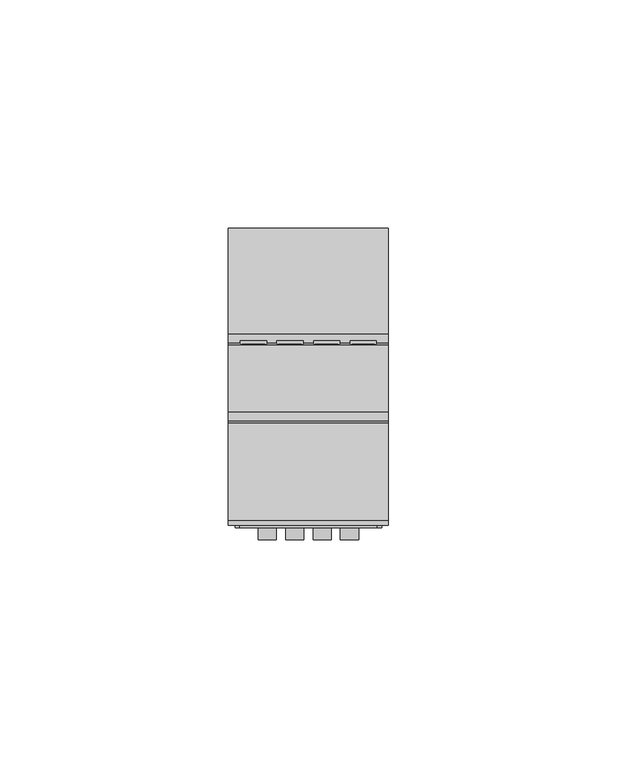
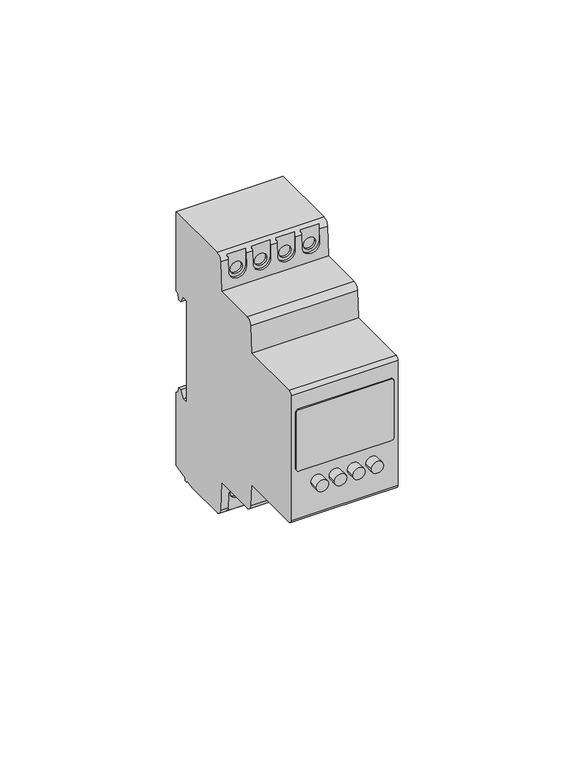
"""IFC4 building model written with IfcOpenShell, lengths in millimetres: proxy geometry, TDM_РЕЛЕ ВРЕМЕНИ НА DIN-РЕЙКУ СЕРИИ РВМЦ : РВМЦ 0.1с/100час 2х8А 24-230 AC/CD."""

from ifc_helpers import new_model, si_unit, point, frame, frame_2d, origin, place, context, project, spatial, polyline, circle_curve, ellipse_curve, trimmed, segment, composite_curve, outline, extrude, source, transform, mapped, element, save
from ifc_brep_helpers import plane_surface, cylinder_surface, revolved_surface, advanced_brep


def electrical_equipment_4113cb17(model_context):
    return source(origin(), model_context, "Body", "SolidModel", [
        extrude(outline(composite_curve([segment(polyline([(15.4266726, 15.0), (15.4266726, -15.0)]), True, "CONTINUOUS"), segment(trimmed(circle_curve(frame_2d((14.4266726, -15.0)), 1.0), [point((15.4266726, -15.0))], [point((14.4266726, -16.0))], False, "CARTESIAN"), True, "CONTINUOUS"), segment(polyline([(14.4266726, -16.0), (-4.7692068, -16.0)]), True, "CONTINUOUS"), segment(trimmed(circle_curve(frame_2d((-4.7692068, -15.0)), 1.0), [point((-4.7692068, -16.0))], [point((-5.7692068, -15.0))], False, "CARTESIAN"), True, "CONTINUOUS"), segment(polyline([(-5.7692068, -15.0), (-5.7692068, 15.0)]), True, "CONTINUOUS"), segment(trimmed(circle_curve(frame_2d((-4.7692068, 15.0)), 1.0), [point((-5.7692068, 15.0))], [point((-4.7692068, 16.0))], False, "CARTESIAN"), True, "CONTINUOUS"), segment(polyline([(-4.7692068, 16.0), (14.4266726, 16.0)]), True, "CONTINUOUS"), segment(trimmed(circle_curve(frame_2d((14.4266726, 15.0)), 1.0), [point((14.4266726, 16.0))], [point((15.4266726, 15.0))], False, "CARTESIAN"), True, "CONTINUOUS")], self_intersect=False)), frame((0.0, -27.9522917, 0.0), z_axis=(0.0, 1.0, 0.0), x_axis=(0.0, 0.0, 1.0)), (0.0, 0.0, 1.0), 0.4522917),
        extrude(outline(composite_curve([segment(trimmed(circle_curve(frame_2d((-11.3756041, 9.0)), 2.0), [point((-11.3756041, 7.0))], [point((-11.3756041, 11.0))], False, "CARTESIAN"), True, "CONTINUOUS"), segment(trimmed(circle_curve(frame_2d((-11.3756041, 9.0)), 2.0), [point((-11.3756041, 11.0))], [point((-11.3756041, 7.0))], False, "CARTESIAN"), True, "CONTINUOUS")], self_intersect=False)), frame((0.0, -30.5593993, 0.0), z_axis=(0.0, 1.0, 0.0), x_axis=(0.0, 0.0, 1.0)), (0.0, 0.0, 1.0), 3.0593993),
        extrude(outline(composite_curve([segment(trimmed(circle_curve(frame_2d((-11.3756041, 3.0)), 2.0), [point((-11.3756041, 5.0))], [point((-11.3756041, 1.0))], False, "CARTESIAN"), True, "CONTINUOUS"), segment(trimmed(circle_curve(frame_2d((-11.3756041, 3.0)), 2.0), [point((-11.3756041, 1.0))], [point((-11.3756041, 5.0))], False, "CARTESIAN"), True, "CONTINUOUS")], self_intersect=False)), frame((0.0, -30.5593993, 0.0), z_axis=(0.0, 1.0, 0.0), x_axis=(0.0, 0.0, 1.0)), (0.0, 0.0, 1.0), 3.0593993),
        extrude(outline(composite_curve([segment(trimmed(circle_curve(frame_2d((-11.3756041, -3.0)), 2.0), [point((-11.3756041, -5.0))], [point((-11.3756041, -1.0))], False, "CARTESIAN"), True, "CONTINUOUS"), segment(trimmed(circle_curve(frame_2d((-11.3756041, -3.0)), 2.0), [point((-11.3756041, -1.0))], [point((-11.3756041, -5.0))], False, "CARTESIAN"), True, "CONTINUOUS")], self_intersect=False)), frame((0.0, -30.5593993, 0.0), z_axis=(0.0, 1.0, 0.0), x_axis=(0.0, 0.0, 1.0)), (0.0, 0.0, 1.0), 3.0593993),
        extrude(outline(composite_curve([segment(trimmed(circle_curve(frame_2d((-11.3756041, -9.0)), 2.0), [point((-11.3756041, -7.0))], [point((-11.3756041, -11.0))], False, "CARTESIAN"), True, "CONTINUOUS"), segment(trimmed(circle_curve(frame_2d((-11.3756041, -9.0)), 2.0), [point((-11.3756041, -11.0))], [point((-11.3756041, -7.0))], False, "CARTESIAN"), True, "CONTINUOUS")], self_intersect=False)), frame((0.0, -30.5593993, 0.0), z_axis=(0.0, 1.0, 0.0), x_axis=(0.0, 0.0, 1.0)), (0.0, 0.0, 1.0), 3.0593993),
        extrude(outline(polyline([(16.0, 16.6821204), (16.0, 14.1138713), (-16.0, 14.1138713), (-16.0, 16.6821204), (16.0, 16.6821204)])), frame((0.0, 0.0, -44.0625), z_axis=(0.0, 0.0, 1.0), x_axis=(1.0, 0.0, 0.0)), (0.0, 0.0, 1.0), 87.8126081),
        advanced_brep(
        [(17.5, 31.7632568, 17.7057143), (17.5, 33.7632568, 17.7057143), (17.5, 35.0790621, 15.4266726), (17.5, 36.2042493, 15.4266726), (17.5, 36.5256071, 17.2491835), (17.5, 37.5, 17.8117495), (17.5, 37.5, 45.0), (17.5, 14.5, 45.0), (17.5, 12.5, 43.0), (17.5, 11.9790691, 33.0600462), (17.5, -2.6020709, 33.0600462), (17.5, -4.5993299, 31.1647181), (17.5, -5.0796325, 22.0), (17.5, -26.3777313, 22.0), (17.5, -27.5, 20.8777313), (17.5, -27.5, -22.3875602), (17.5, -26.3875602, -23.5), (17.5, -5.0010208, -23.5), (17.5, -4.5993299, -31.1647181), (17.5, -2.6020709, -33.0600462), (17.5, 11.9790691, -33.0600462), (17.5, 12.5, -43.0), (17.5, 14.5, -45.0), (17.5, 28.5548029, -45.0), (17.5, 31.6319498, -44.175481), (17.5, 31.6319498, -45.0), (17.5, 32.5, -45.0), (17.5, 32.5, -43.9428876), (17.5, 37.5, -42.6031417), (17.5, 37.5, -17.4003208), (17.5, 36.5256071, -16.8377548), (17.5, 36.2042493, -15.0152439), (17.5, 35.0790621, -15.0152439), (17.5, 33.7632568, -17.2942857), (17.5, 31.7632568, -17.2942857), (-17.5, 31.7632568, 17.7057143), (-17.5, 31.7632568, -17.2942857), (-17.5, 33.7632568, -17.2942857), (-17.5, 35.0790621, -15.0152439), (-17.5, 36.2042493, -15.0152439), (-17.5, 36.5256071, -16.8377548), (-17.5, 37.5, -17.4003208), (-17.5, 37.5, -42.6031417), (-17.5, 32.5, -43.9428876), (-17.5, 32.5, -45.0), (-17.5, 31.6319498, -45.0), (-17.5, 31.6319498, -44.175481), (-17.5, 28.5548029, -45.0), (-17.5, 14.5, -45.0), (-17.5, 12.5, -43.0), (-17.5, 11.9790691, -33.0600462), (-17.5, -2.6020709, -33.0600462), (-17.5, -4.5993299, -31.1647181), (-17.5, -5.0010208, -23.5), (-17.5, -26.3875602, -23.5), (-17.5, -27.5, -22.3875602), (-17.5, -27.5, 20.8777313), (-17.5, -26.3777313, 22.0), (-17.5, -5.0796325, 22.0), (-17.5, -4.5993299, 31.1647181), (-17.5, -2.6020709, 33.0600462), (-17.5, 11.9790691, 33.0600462), (-17.5, 12.5, 43.0), (-17.5, 14.5, 45.0), (-17.5, 37.5, 45.0), (-17.5, 37.5, 17.8117495), (-17.5, 36.5256071, 17.2491835), (-17.5, 36.2042493, 15.4266726), (-17.5, 35.0790621, 15.4266726), (-17.5, 33.7632568, 17.7057143), (7.0, 13.0378948, -38.7081383), (1.0, 13.0378948, -38.7081383), (1.0, 13.0378948, -44.3646422), (7.0, 13.0378948, -44.3646422), (6.0, 13.0378948, -38.7081383), (2.0, 13.0378948, -38.7081383), (15.0, 13.0378948, -38.7081383), (9.0, 13.0378948, -38.7081383), (9.0, 13.0378948, -44.3646422), (15.0, 13.0378948, -44.3646422), (14.0, 13.0378948, -38.7081383), (10.0, 13.0378948, -38.7081383), (-1.0, 13.0378948, -38.7081383), (-7.0, 13.0378948, -38.7081383), (-7.0, 13.0378948, -44.3646422), (-1.0, 13.0378948, -44.3646422), (-6.0, 13.0378948, -38.7081383), (-2.0, 13.0378948, -38.7081383), (-9.0, 13.0378948, -38.7081383), (-15.0, 13.0378948, -38.7081383), (-15.0, 13.0378948, -44.3646422), (-9.0, 13.0378948, -44.3646422), (-14.0, 13.0378948, -38.7081383), (-10.0, 13.0378948, -38.7081383), (1.0, 13.0378948, 38.7081383), (7.0, 13.0378948, 38.7081383), (7.0, 13.0378948, 44.3646422), (1.0, 13.0378948, 44.3646422), (6.0, 13.0378948, 38.7081383), (2.0, 13.0378948, 38.7081383), (9.0, 13.0378948, 38.7081383), (15.0, 13.0378948, 38.7081383), (15.0, 13.0378948, 44.3646422), (9.0, 13.0378948, 44.3646422), (14.0, 13.0378948, 38.7081383), (10.0, 13.0378948, 38.7081383), (-7.0, 13.0378948, 38.7081383), (-1.0, 13.0378948, 38.7081383), (-1.0, 13.0378948, 44.3646422), (-7.0, 13.0378948, 44.3646422), (-6.0, 13.0378948, 38.7081383), (-2.0, 13.0378948, 38.7081383), (-15.0, 13.0378948, 38.7081383), (-9.0, 13.0378948, 38.7081383), (-9.0, 13.0378948, 44.3646422), (-15.0, 13.0378948, 44.3646422), (-14.0, 13.0378948, 38.7081383), (-10.0, 13.0378948, 38.7081383), (-15.0, 12.5, 43.0), (-9.0, 12.5, 43.0), (-7.0, 12.5, 43.0), (-1.0, 12.5, 43.0), (1.0, 12.5, 43.0), (7.0, 12.5, 43.0), (9.0, 12.5, 43.0), (15.0, 12.5, 43.0), (15.0, 12.2750731, 38.7081383), (9.0, 12.2750731, 38.7081383), (7.0, 12.2750731, 38.7081383), (1.0, 12.2750731, 38.7081383), (-1.0, 12.2750731, 38.7081383), (-7.0, 12.2750731, 38.7081383), (-9.0, 12.2750731, 38.7081383), (-15.0, 12.2750731, 38.7081383), (-15.0, 12.5, -43.0), (-15.0, 12.2750731, -38.7081383), (-9.0, 12.2750731, -38.7081383), (-9.0, 12.5, -43.0), (-7.0, 12.5, -43.0), (-7.0, 12.2750731, -38.7081383), (-1.0, 12.2750731, -38.7081383), (-1.0, 12.5, -43.0), (1.0, 12.5, -43.0), (1.0, 12.2750731, -38.7081383), (7.0, 12.2750731, -38.7081383), (7.0, 12.5, -43.0), (9.0, 12.5, -43.0), (9.0, 12.2750731, -38.7081383), (15.0, 12.2750731, -38.7081383), (15.0, 12.5, -43.0), (10.0, 15.2465164, -38.7081383), (14.0, 15.2465164, -38.7081383), (2.0, 15.2465164, -38.7081383), (6.0, 15.2465164, -38.7081383), (-10.0, 15.2465164, -38.7081383), (-14.0, 15.2465164, -38.7081383), (-2.0, 15.2465164, -38.7081383), (-6.0, 15.2465164, -38.7081383), (10.0, 15.2465164, 38.7081383), (14.0, 15.2465164, 38.7081383), (2.0, 15.2465164, 38.7081383), (6.0, 15.2465164, 38.7081383), (-10.0, 15.2465164, 38.7081383), (-14.0, 15.2465164, 38.7081383), (-2.0, 15.2465164, 38.7081383), (-6.0, 15.2465164, 38.7081383)],
        [
            (0, 1),
            (1, 2),
            (2, 3),
            (3, 4),
            (4, 5),
            (5, 6),
            (6, 7),
            (7, 8, circle_curve(frame((17.5, 14.5, 43.0), z_axis=(1.0, 0.0, 0.0), x_axis=(0.0, -1.0, 0.0)), 2.0)),
            (8, 9),
            (9, 10),
            (10, 11, circle_curve(frame((17.5, -2.6020709, 31.0600462), z_axis=(1.0, 0.0, 0.0), x_axis=(0.0, -1.0, 0.0)), 2.0)),
            (11, 12),
            (12, 13),
            (13, 14, circle_curve(frame((17.5, -26.3777313, 20.8777313), z_axis=(1.0, 0.0, 0.0), x_axis=(0.0, -1.0, 0.0)), 1.1222687)),
            (14, 15),
            (15, 16, circle_curve(frame((17.5, -26.3875602, -22.3875602), z_axis=(1.0, 0.0, 0.0), x_axis=(0.0, -1.0, 0.0)), 1.1124398)),
            (16, 17),
            (17, 18),
            (18, 19, circle_curve(frame((17.5, -2.6020709, -31.0600462), z_axis=(1.0, 0.0, 0.0), x_axis=(0.0, -1.0, 0.0)), 2.0)),
            (19, 20),
            (20, 21),
            (21, 22, circle_curve(frame((17.5, 14.5, -43.0), z_axis=(1.0, 0.0, 0.0), x_axis=(0.0, -1.0, 0.0)), 2.0)),
            (22, 23),
            (23, 24),
            (24, 25),
            (25, 26),
            (26, 27),
            (27, 28),
            (28, 29),
            (29, 30),
            (30, 31),
            (31, 32),
            (32, 33),
            (33, 34),
            (34, 0),
            (35, 36),
            (36, 37),
            (37, 38),
            (38, 39),
            (39, 40),
            (40, 41),
            (41, 42),
            (42, 43),
            (43, 44),
            (44, 45),
            (45, 46),
            (46, 47),
            (47, 48),
            (48, 49, circle_curve(frame((-17.5, 14.5, -43.0), z_axis=(-1.0, 0.0, 0.0), x_axis=(0.0, -1.0, 0.0)), 2.0)),
            (49, 50),
            (50, 51),
            (51, 52, circle_curve(frame((-17.5, -2.6020709, -31.0600462), z_axis=(-1.0, 0.0, 0.0), x_axis=(0.0, -1.0, 0.0)), 2.0)),
            (52, 53),
            (53, 54),
            (54, 55, circle_curve(frame((-17.5, -26.3875602, -22.3875602), z_axis=(-1.0, 0.0, 0.0), x_axis=(0.0, -1.0, 0.0)), 1.1124398)),
            (55, 56),
            (56, 57, circle_curve(frame((-17.5, -26.3777313, 20.8777313), z_axis=(-1.0, 0.0, 0.0), x_axis=(0.0, -1.0, 0.0)), 1.1222687)),
            (57, 58),
            (58, 59),
            (59, 60, circle_curve(frame((-17.5, -2.6020709, 31.0600462), z_axis=(-1.0, 0.0, 0.0), x_axis=(0.0, -1.0, 0.0)), 2.0)),
            (60, 61),
            (61, 62),
            (62, 63, circle_curve(frame((-17.5, 14.5, 43.0), z_axis=(-1.0, 0.0, 0.0), x_axis=(0.0, -1.0, 0.0)), 2.0)),
            (63, 64),
            (64, 65),
            (65, 66),
            (66, 67),
            (67, 68),
            (68, 69),
            (69, 35),
            (70, 71, circle_curve(frame((4.0, 13.0378948, -38.7081383), z_axis=(0.0, -1.0, 0.0), x_axis=(1.0, 0.0, 0.0)), 3.0)),
            (71, 72),
            (72, 73),
            (73, 70),
            (74, 75, circle_curve(frame((4.0, 13.0378948, -38.7081383), z_axis=(0.0, 1.0, 0.0), x_axis=(1.0, 0.0, 0.0)), 2.0)),
            (75, 74, circle_curve(frame((4.0, 13.0378948, -38.7081383), z_axis=(0.0, 1.0, 0.0), x_axis=(1.0, 0.0, 0.0)), 2.0)),
            (76, 77, circle_curve(frame((12.0, 13.0378948, -38.7081383), z_axis=(0.0, -1.0, 0.0), x_axis=(1.0, 0.0, 0.0)), 3.0)),
            (77, 78),
            (78, 79),
            (79, 76),
            (80, 81, circle_curve(frame((12.0, 13.0378948, -38.7081383), z_axis=(0.0, 1.0, 0.0), x_axis=(1.0, 0.0, 0.0)), 2.0)),
            (81, 80, circle_curve(frame((12.0, 13.0378948, -38.7081383), z_axis=(0.0, 1.0, 0.0), x_axis=(1.0, 0.0, 0.0)), 2.0)),
            (82, 83, circle_curve(frame((-4.0, 13.0378948, -38.7081383), z_axis=(0.0, -1.0, 0.0), x_axis=(-1.0, 0.0, 0.0)), 3.0)),
            (83, 84),
            (84, 85),
            (85, 82),
            (86, 87, circle_curve(frame((-4.0, 13.0378948, -38.7081383), z_axis=(0.0, 1.0, 0.0), x_axis=(-1.0, 0.0, 0.0)), 2.0)),
            (87, 86, circle_curve(frame((-4.0, 13.0378948, -38.7081383), z_axis=(0.0, 1.0, 0.0), x_axis=(-1.0, 0.0, 0.0)), 2.0)),
            (88, 89, circle_curve(frame((-12.0, 13.0378948, -38.7081383), z_axis=(0.0, -1.0, 0.0), x_axis=(-1.0, 0.0, 0.0)), 3.0)),
            (89, 90),
            (90, 91),
            (91, 88),
            (92, 93, circle_curve(frame((-12.0, 13.0378948, -38.7081383), z_axis=(0.0, 1.0, 0.0), x_axis=(-1.0, 0.0, 0.0)), 2.0)),
            (93, 92, circle_curve(frame((-12.0, 13.0378948, -38.7081383), z_axis=(0.0, 1.0, 0.0), x_axis=(-1.0, 0.0, 0.0)), 2.0)),
            (94, 95, circle_curve(frame((4.0, 13.0378948, 38.7081383), z_axis=(0.0, -1.0, 0.0), x_axis=(1.0, 0.0, 0.0)), 3.0)),
            (95, 96),
            (96, 97),
            (97, 94),
            (98, 99, circle_curve(frame((4.0, 13.0378948, 38.7081383), z_axis=(0.0, 1.0, 0.0), x_axis=(1.0, 0.0, 0.0)), 2.0)),
            (99, 98, circle_curve(frame((4.0, 13.0378948, 38.7081383), z_axis=(0.0, 1.0, 0.0), x_axis=(1.0, 0.0, 0.0)), 2.0)),
            (100, 101, circle_curve(frame((12.0, 13.0378948, 38.7081383), z_axis=(0.0, -1.0, 0.0), x_axis=(1.0, 0.0, 0.0)), 3.0)),
            (101, 102),
            (102, 103),
            (103, 100),
            (104, 105, circle_curve(frame((12.0, 13.0378948, 38.7081383), z_axis=(0.0, 1.0, 0.0), x_axis=(1.0, 0.0, 0.0)), 2.0)),
            (105, 104, circle_curve(frame((12.0, 13.0378948, 38.7081383), z_axis=(0.0, 1.0, 0.0), x_axis=(1.0, 0.0, 0.0)), 2.0)),
            (106, 107, circle_curve(frame((-4.0, 13.0378948, 38.7081383), z_axis=(0.0, -1.0, 0.0), x_axis=(-1.0, 0.0, 0.0)), 3.0)),
            (107, 108),
            (108, 109),
            (109, 106),
            (110, 111, circle_curve(frame((-4.0, 13.0378948, 38.7081383), z_axis=(0.0, 1.0, 0.0), x_axis=(-1.0, 0.0, 0.0)), 2.0)),
            (111, 110, circle_curve(frame((-4.0, 13.0378948, 38.7081383), z_axis=(0.0, 1.0, 0.0), x_axis=(-1.0, 0.0, 0.0)), 2.0)),
            (112, 113, circle_curve(frame((-12.0, 13.0378948, 38.7081383), z_axis=(0.0, -1.0, 0.0), x_axis=(-1.0, 0.0, 0.0)), 3.0)),
            (113, 114),
            (114, 115),
            (115, 112),
            (116, 117, circle_curve(frame((-12.0, 13.0378948, 38.7081383), z_axis=(0.0, 1.0, 0.0), x_axis=(-1.0, 0.0, 0.0)), 2.0)),
            (117, 116, circle_curve(frame((-12.0, 13.0378948, 38.7081383), z_axis=(0.0, 1.0, 0.0), x_axis=(-1.0, 0.0, 0.0)), 2.0)),
            (0, 35),
            (69, 1),
            (68, 2),
            (67, 3),
            (66, 4),
            (65, 5),
            (64, 6),
            (63, 7),
            (62, 118),
            (118, 115, circle_curve(frame((-15.0, 14.5, 43.0), z_axis=(-1.0, 0.0, 0.0), x_axis=(0.0, -1.0, 0.0)), 2.0)),
            (114, 119, circle_curve(frame((-9.0, 14.5, 43.0), z_axis=(1.0, 0.0, 0.0), x_axis=(0.0, -1.0, 0.0)), 2.0)),
            (119, 120),
            (120, 109, circle_curve(frame((-7.0, 14.5, 43.0), z_axis=(-1.0, 0.0, 0.0), x_axis=(0.0, -1.0, 0.0)), 2.0)),
            (108, 121, circle_curve(frame((-1.0, 14.5, 43.0), z_axis=(1.0, 0.0, 0.0), x_axis=(0.0, -1.0, 0.0)), 2.0)),
            (121, 122),
            (122, 97, circle_curve(frame((1.0, 14.5, 43.0), z_axis=(-1.0, 0.0, 0.0), x_axis=(0.0, -1.0, 0.0)), 2.0)),
            (96, 123, circle_curve(frame((7.0, 14.5, 43.0), z_axis=(1.0, 0.0, 0.0), x_axis=(0.0, -1.0, 0.0)), 2.0)),
            (123, 124),
            (124, 103, circle_curve(frame((9.0, 14.5, 43.0), z_axis=(-1.0, 0.0, 0.0), x_axis=(0.0, -1.0, 0.0)), 2.0)),
            (102, 125, circle_curve(frame((15.0, 14.5, 43.0), z_axis=(1.0, 0.0, 0.0), x_axis=(0.0, -1.0, 0.0)), 2.0)),
            (125, 8),
            (125, 126),
            (126, 127, ellipse_curve(frame((12.0, 12.2750731, 38.7081383), z_axis=(0.0, 0.9986295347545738, -0.052335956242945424), x_axis=(0.0, -0.052335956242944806, -0.9986295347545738)), 3.004117, 3.0)),
            (127, 124),
            (123, 128),
            (128, 129, ellipse_curve(frame((4.0, 12.2750731, 38.7081383), z_axis=(0.0, 0.9986295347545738, -0.052335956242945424), x_axis=(0.0, -0.052335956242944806, -0.9986295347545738)), 3.004117, 3.0)),
            (129, 122),
            (121, 130),
            (130, 131, ellipse_curve(frame((-4.0, 12.2750731, 38.7081383), z_axis=(0.0, 0.9986295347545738, -0.052335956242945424), x_axis=(0.0, -0.052335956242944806, -0.9986295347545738)), 3.004117, 3.0)),
            (131, 120),
            (119, 132),
            (132, 133, ellipse_curve(frame((-12.0, 12.2750731, 38.7081383), z_axis=(0.0, 0.9986295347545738, -0.052335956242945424), x_axis=(0.0, -0.052335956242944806, -0.9986295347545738)), 3.004117, 3.0)),
            (133, 118),
            (61, 9),
            (60, 10),
            (59, 11),
            (58, 12),
            (57, 13),
            (56, 14),
            (55, 15),
            (16, 54),
            (53, 17),
            (52, 18),
            (51, 19),
            (50, 20),
            (49, 134),
            (134, 135),
            (135, 136, ellipse_curve(frame((-12.0, 12.2750731, -38.7081383), z_axis=(0.0, 0.9986295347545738, 0.05233595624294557), x_axis=(0.0, -0.05233595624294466, 0.9986295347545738)), 3.004117, 3.0)),
            (136, 137),
            (137, 138),
            (138, 139),
            (139, 140, ellipse_curve(frame((-4.0, 12.2750731, -38.7081383), z_axis=(0.0, 0.9986295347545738, 0.05233595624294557), x_axis=(0.0, -0.05233595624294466, 0.9986295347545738)), 3.004117, 3.0)),
            (140, 141),
            (141, 142),
            (142, 143),
            (143, 144, ellipse_curve(frame((4.0, 12.2750731, -38.7081383), z_axis=(0.0, 0.9986295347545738, 0.05233595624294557), x_axis=(0.0, -0.05233595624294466, 0.9986295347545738)), 3.004117, 3.0)),
            (144, 145),
            (145, 146),
            (146, 147),
            (147, 148, ellipse_curve(frame((12.0, 12.2750731, -38.7081383), z_axis=(0.0, 0.9986295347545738, 0.05233595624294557), x_axis=(0.0, -0.05233595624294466, 0.9986295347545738)), 3.004117, 3.0)),
            (148, 149),
            (149, 21),
            (149, 79, circle_curve(frame((15.0, 14.5, -43.0), z_axis=(1.0, 0.0, 0.0), x_axis=(0.0, -1.0, 0.0)), 2.0)),
            (78, 146, circle_curve(frame((9.0, 14.5, -43.0), z_axis=(-1.0, 0.0, 0.0), x_axis=(0.0, -1.0, 0.0)), 2.0)),
            (145, 73, circle_curve(frame((7.0, 14.5, -43.0), z_axis=(1.0, 0.0, 0.0), x_axis=(0.0, -1.0, 0.0)), 2.0)),
            (72, 142, circle_curve(frame((1.0, 14.5, -43.0), z_axis=(-1.0, 0.0, 0.0), x_axis=(0.0, -1.0, 0.0)), 2.0)),
            (141, 85, circle_curve(frame((-1.0, 14.5, -43.0), z_axis=(1.0, 0.0, 0.0), x_axis=(0.0, -1.0, 0.0)), 2.0)),
            (84, 138, circle_curve(frame((-7.0, 14.5, -43.0), z_axis=(-1.0, 0.0, 0.0), x_axis=(0.0, -1.0, 0.0)), 2.0)),
            (137, 91, circle_curve(frame((-9.0, 14.5, -43.0), z_axis=(1.0, 0.0, 0.0), x_axis=(0.0, -1.0, 0.0)), 2.0)),
            (90, 134, circle_curve(frame((-15.0, 14.5, -43.0), z_axis=(-1.0, 0.0, 0.0), x_axis=(0.0, -1.0, 0.0)), 2.0)),
            (48, 22),
            (47, 23),
            (25, 45),
            (44, 26),
            (43, 27),
            (46, 24),
            (28, 42),
            (41, 29),
            (40, 30),
            (39, 31),
            (38, 32),
            (37, 33),
            (36, 34),
            (150, 151, circle_curve(frame((12.0, 15.2465164, -38.7081383), z_axis=(0.0, -1.0, 0.0), x_axis=(1.0, 0.0, 0.0)), 2.0)),
            (151, 150, circle_curve(frame((12.0, 15.2465164, -38.7081383), z_axis=(0.0, -1.0, 0.0), x_axis=(1.0, 0.0, 0.0)), 2.0)),
            (152, 153, circle_curve(frame((4.0, 15.2465164, -38.7081383), z_axis=(0.0, -1.0, 0.0), x_axis=(1.0, 0.0, 0.0)), 2.0)),
            (153, 152, circle_curve(frame((4.0, 15.2465164, -38.7081383), z_axis=(0.0, -1.0, 0.0), x_axis=(1.0, 0.0, 0.0)), 2.0)),
            (154, 155, circle_curve(frame((-12.0, 15.2465164, -38.7081383), z_axis=(0.0, -1.0, 0.0), x_axis=(-1.0, 0.0, 0.0)), 2.0)),
            (155, 154, circle_curve(frame((-12.0, 15.2465164, -38.7081383), z_axis=(0.0, -1.0, 0.0), x_axis=(-1.0, 0.0, 0.0)), 2.0)),
            (156, 157, circle_curve(frame((-4.0, 15.2465164, -38.7081383), z_axis=(0.0, -1.0, 0.0), x_axis=(-1.0, 0.0, 0.0)), 2.0)),
            (157, 156, circle_curve(frame((-4.0, 15.2465164, -38.7081383), z_axis=(0.0, -1.0, 0.0), x_axis=(-1.0, 0.0, 0.0)), 2.0)),
            (158, 159, circle_curve(frame((12.0, 15.2465164, 38.7081383), z_axis=(0.0, -1.0, 0.0), x_axis=(1.0, 0.0, 0.0)), 2.0)),
            (159, 158, circle_curve(frame((12.0, 15.2465164, 38.7081383), z_axis=(0.0, -1.0, 0.0), x_axis=(1.0, 0.0, 0.0)), 2.0)),
            (160, 161, circle_curve(frame((4.0, 15.2465164, 38.7081383), z_axis=(0.0, -1.0, 0.0), x_axis=(1.0, 0.0, 0.0)), 2.0)),
            (161, 160, circle_curve(frame((4.0, 15.2465164, 38.7081383), z_axis=(0.0, -1.0, 0.0), x_axis=(1.0, 0.0, 0.0)), 2.0)),
            (162, 163, circle_curve(frame((-12.0, 15.2465164, 38.7081383), z_axis=(0.0, -1.0, 0.0), x_axis=(-1.0, 0.0, 0.0)), 2.0)),
            (163, 162, circle_curve(frame((-12.0, 15.2465164, 38.7081383), z_axis=(0.0, -1.0, 0.0), x_axis=(-1.0, 0.0, 0.0)), 2.0)),
            (164, 165, circle_curve(frame((-4.0, 15.2465164, 38.7081383), z_axis=(0.0, -1.0, 0.0), x_axis=(-1.0, 0.0, 0.0)), 2.0)),
            (165, 164, circle_curve(frame((-4.0, 15.2465164, 38.7081383), z_axis=(0.0, -1.0, 0.0), x_axis=(-1.0, 0.0, 0.0)), 2.0)),
            (71, 143),
            (144, 70),
            (77, 147),
            (148, 76),
            (82, 140),
            (139, 83),
            (88, 136),
            (135, 89),
            (94, 129),
            (128, 95),
            (100, 127),
            (126, 101),
            (107, 130),
            (131, 106),
            (113, 132),
            (133, 112),
            (150, 81),
            (80, 151),
            (152, 75),
            (74, 153),
            (154, 93),
            (92, 155),
            (156, 87),
            (86, 157),
            (158, 105),
            (104, 159),
            (160, 99),
            (98, 161),
            (162, 117),
            (116, 163),
            (164, 111),
            (110, 165),
        ],
        [
            plane_surface(frame((17.5, 31.7632568, 17.7057143), z_axis=(1.0, 0.0, 0.0), x_axis=(0.0, 1.0, 0.0))),
            plane_surface(frame((-17.5, 31.7632568, 17.7057143), z_axis=(-1.0, 0.0, 0.0), x_axis=(0.0, -1.0, 0.0))),
            plane_surface(frame((1.0, 13.0378948, -36.9659615), z_axis=(0.0, -1.0, 0.0), x_axis=(0.0, 0.0, 1.0))),
            plane_surface(frame((17.5, 31.7632568, 17.7057143), z_axis=(0.0, 0.0, -1.0), x_axis=(-1.0, 0.0, 0.0))),
            plane_surface(frame((17.5, 33.7632568, 17.7057143), z_axis=(0.0, -0.8660254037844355, -0.5000000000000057), x_axis=(-1.0, 0.0, 0.0))),
            plane_surface(frame((17.5, 35.0790621, 15.4266726), z_axis=(0.0, 0.0, -1.0), x_axis=(-1.0, 0.0, 0.0))),
            plane_surface(frame((17.5, 36.2042493, 15.4266726), z_axis=(0.0, 0.984807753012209, -0.17364817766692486), x_axis=(-1.0, 0.0, 0.0))),
            plane_surface(frame((17.5, 36.5256071, 17.2491835), z_axis=(0.0, 0.5000000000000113, -0.8660254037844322), x_axis=(-1.0, 0.0, 0.0))),
            plane_surface(frame((17.5, 37.5, 17.8117495), z_axis=(0.0, 1.0, 0.0), x_axis=(-1.0, 0.0, 0.0))),
            plane_surface(frame((17.5, 37.5, 45.0), z_axis=(0.0, 0.0, 1.0), x_axis=(-1.0, 0.0, 0.0))),
            cylinder_surface(frame((-17.5, 14.5, 43.0), z_axis=(1.0, 0.0, 0.0), x_axis=(0.0, -1.0, 0.0)), 2.0),
            plane_surface(frame((17.5, 12.5, 43.0), z_axis=(0.0, -0.9986295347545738, 0.052335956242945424), x_axis=(-1.0, 0.0, 0.0))),
            plane_surface(frame((17.5, 11.9790691, 33.0600462), z_axis=(0.0, 0.0, 1.0), x_axis=(-1.0, 0.0, 0.0))),
            cylinder_surface(frame((-17.5, -2.6020709, 31.0600462), z_axis=(1.0, 0.0, 0.0), x_axis=(0.0, -1.0, 0.0)), 2.0),
            plane_surface(frame((17.5, -4.5993299, 31.1647181), z_axis=(0.0, -0.9986295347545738, 0.052335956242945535), x_axis=(-1.0, 0.0, 0.0))),
            plane_surface(frame((17.5, -5.0796325, 22.0), z_axis=(0.0, 0.0, 1.0), x_axis=(-1.0, 0.0, 0.0))),
            cylinder_surface(frame((-17.5, -26.3777313, 20.8777313), z_axis=(1.0, 0.0, 0.0), x_axis=(0.0, -1.0, 0.0)), 1.1222687),
            plane_surface(frame((17.5, -27.5, 20.8777313), z_axis=(0.0, -1.0, 0.0), x_axis=(-1.0, 0.0, 0.0))),
            plane_surface(frame((17.5, -26.3875602, -23.5), z_axis=(0.0, 0.0, -1.0), x_axis=(-1.0, 0.0, 0.0))),
            plane_surface(frame((17.5, -5.0010208, -23.5), z_axis=(0.0, -0.9986295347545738, -0.05233595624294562), x_axis=(-1.0, 0.0, 0.0))),
            cylinder_surface(frame((-17.5, -2.6020709, -31.0600462), z_axis=(1.0, 0.0, 0.0), x_axis=(0.0, -1.0, 0.0)), 2.0),
            plane_surface(frame((17.5, -2.6020709, -33.0600462), z_axis=(0.0, 0.0, -1.0), x_axis=(-1.0, 0.0, 0.0))),
            plane_surface(frame((17.5, 11.9790691, -33.0600462), z_axis=(0.0, -0.9986295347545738, -0.05233595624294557), x_axis=(-1.0, 0.0, 0.0))),
            cylinder_surface(frame((-17.5, 14.5, -43.0), z_axis=(1.0, 0.0, 0.0), x_axis=(0.0, -1.0, 0.0)), 2.0),
            plane_surface(frame((17.5, 14.5, -45.0), z_axis=(0.0, 0.0, -1.0), x_axis=(-1.0, 0.0, 0.0))),
            plane_surface(frame((17.5, 31.6319498, -45.0), z_axis=(0.0, 0.0, -1.0), x_axis=(-1.0, 0.0, 0.0))),
            plane_surface(frame((17.5, 32.5, -45.0), z_axis=(0.0, 1.0, 0.0), x_axis=(-1.0, 0.0, 0.0))),
            plane_surface(frame((17.5, 28.5548029, -45.0), z_axis=(0.0, 0.2588190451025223, -0.965925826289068), x_axis=(-1.0, 0.0, 0.0))),
            plane_surface(frame((17.5, 37.5, -42.6031417), z_axis=(0.0, 1.0, 0.0), x_axis=(-1.0, 0.0, 0.0))),
            plane_surface(frame((17.5, 37.5, -17.4003208), z_axis=(0.0, 0.5000000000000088, 0.8660254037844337), x_axis=(-1.0, 0.0, 0.0))),
            plane_surface(frame((17.5, 36.5256071, -16.8377548), z_axis=(0.0, 0.9848077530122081, 0.17364817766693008), x_axis=(-1.0, 0.0, 0.0))),
            plane_surface(frame((17.5, 36.2042493, -15.0152439), z_axis=(0.0, 0.0, 1.0), x_axis=(-1.0, 0.0, 0.0))),
            plane_surface(frame((17.5, 35.0790621, -15.0152439), z_axis=(0.0, -0.8660254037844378, 0.5000000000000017), x_axis=(-1.0, 0.0, 0.0))),
            plane_surface(frame((17.5, 33.7632568, -17.2942857), z_axis=(0.0, 0.0, 1.0), x_axis=(-1.0, 0.0, 0.0))),
            plane_surface(frame((17.5, 31.7632568, -17.2942857), z_axis=(0.0, 1.0, 0.0), x_axis=(-1.0, 0.0, 0.0))),
            cylinder_surface(frame((-17.5, -26.3875602, -22.3875602), z_axis=(1.0, 0.0, 0.0), x_axis=(0.0, -1.0, 0.0)), 1.1124398),
            plane_surface(frame((14.0, 15.2465164, -38.7081383), z_axis=(0.0, -1.0, 0.0), x_axis=(0.0, 0.0, -1.0))),
            plane_surface(frame((17.5, 31.6319498, -44.175481), z_axis=(0.0, -1.0, 0.0), x_axis=(-1.0, 0.0, 0.0))),
            plane_surface(frame((17.5, 32.5, -43.9428876), z_axis=(0.0, 0.2588190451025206, -0.9659258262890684), x_axis=(-1.0, 0.0, 0.0))),
            plane_surface(frame((1.0, 0.0, -38.7081383), z_axis=(1.0, 0.0, 0.0), x_axis=(0.0, 1.0, 0.0))),
            plane_surface(frame((7.0, 0.0, -45.0), z_axis=(-1.0, 0.0, 0.0), x_axis=(0.0, 1.0, 0.0))),
            revolved_surface(polyline([(7.0, 12.117849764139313, -38.7081383), (7.0, 13.0378948, -38.7081383)]), (4.0, 13.0378948, -38.7081383), (0.0, -1.0, 0.0)),
            plane_surface(frame((9.0, 0.0, -38.7081383), z_axis=(1.0, 0.0, 0.0), x_axis=(0.0, 1.0, 0.0))),
            plane_surface(frame((15.0, 0.0, -45.0), z_axis=(-1.0, 0.0, 0.0), x_axis=(0.0, 1.0, 0.0))),
            revolved_surface(polyline([(15.0, 12.117849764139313, -38.7081383), (15.0, 13.0378948, -38.7081383)]), (12.0, 0.0, -38.7081383), (0.0, -1.0, 0.0)),
            revolved_surface(polyline([(-7.0, 12.117849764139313, -38.7081383), (-7.0, 13.0378948, -38.7081383)]), (-4.0, 0.0, -38.7081383), (0.0, -1.0, 0.0)),
            plane_surface(frame((-7.0, 0.0, -38.7081383), z_axis=(1.0, 0.0, 0.0), x_axis=(0.0, 1.0, 0.0))),
            plane_surface(frame((-1.0, 0.0, -45.0), z_axis=(-1.0, 0.0, 0.0), x_axis=(0.0, 1.0, 0.0))),
            revolved_surface(polyline([(-15.0, 12.117849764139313, -38.7081383), (-15.0, 13.0378948, -38.7081383)]), (-12.0, 0.0, -38.7081383), (0.0, -1.0, 0.0)),
            plane_surface(frame((-15.0, 0.0, -38.7081383), z_axis=(1.0, 0.0, 0.0), x_axis=(0.0, 1.0, 0.0))),
            plane_surface(frame((-9.0, 0.0, -45.0), z_axis=(-1.0, 0.0, 0.0), x_axis=(0.0, 1.0, 0.0))),
            revolved_surface(polyline([(7.0, 12.117849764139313, 38.7081383), (7.0, 13.0378948, 38.7081383)]), (4.0, 0.0, 38.7081383), (0.0, -1.0, 0.0)),
            plane_surface(frame((7.0, 0.0, 38.7081383), z_axis=(-1.0, 0.0, 0.0), x_axis=(0.0, 1.0, 0.0))),
            plane_surface(frame((1.0, 0.0, 45.0), z_axis=(1.0, 0.0, 0.0), x_axis=(0.0, 1.0, 0.0))),
            revolved_surface(polyline([(15.0, 12.117849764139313, 38.7081383), (15.0, 13.0378948, 38.7081383)]), (12.0, 0.0, 38.7081383), (0.0, -1.0, 0.0)),
            plane_surface(frame((15.0, 0.0, 38.7081383), z_axis=(-1.0, 0.0, 0.0), x_axis=(0.0, 1.0, 0.0))),
            plane_surface(frame((9.0, 0.0, 45.0), z_axis=(1.0, 0.0, 0.0), x_axis=(0.0, 1.0, 0.0))),
            plane_surface(frame((-1.0, 0.0, 38.7081383), z_axis=(-1.0, 0.0, 0.0), x_axis=(0.0, 1.0, 0.0))),
            plane_surface(frame((-7.0, 0.0, 45.0), z_axis=(1.0, 0.0, 0.0), x_axis=(0.0, 1.0, 0.0))),
            revolved_surface(polyline([(-7.0, 12.117849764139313, 38.7081383), (-7.0, 13.0378948, 38.7081383)]), (-4.0, 0.0, 38.7081383), (0.0, -1.0, 0.0)),
            plane_surface(frame((-9.0, 0.0, 38.7081383), z_axis=(-1.0, 0.0, 0.0), x_axis=(0.0, 1.0, 0.0))),
            plane_surface(frame((-15.0, 0.0, 45.0), z_axis=(1.0, 0.0, 0.0), x_axis=(0.0, 1.0, 0.0))),
            revolved_surface(polyline([(-15.0, 12.117849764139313, 38.7081383), (-15.0, 13.0378948, 38.7081383)]), (-12.0, 0.0, 38.7081383), (0.0, -1.0, 0.0)),
            revolved_surface(polyline([(14.0, 13.0378948, -38.7081383), (14.0, 15.2465164, -38.7081383)]), (12.0, 15.2465164, -38.7081383), (0.0, -1.0, 0.0)),
            revolved_surface(polyline([(6.0, 13.0378948, -38.7081383), (6.0, 15.2465164, -38.7081383)]), (4.0, 0.0, -38.7081383), (0.0, -1.0, 0.0)),
            revolved_surface(polyline([(-14.0, 13.0378948, -38.7081383), (-14.0, 15.2465164, -38.7081383)]), (-12.0, 0.0, -38.7081383), (0.0, -1.0, 0.0)),
            revolved_surface(polyline([(-6.0, 13.0378948, -38.7081383), (-6.0, 15.2465164, -38.7081383)]), (-4.0, 0.0, -38.7081383), (0.0, -1.0, 0.0)),
            revolved_surface(polyline([(14.0, 13.0378948, 38.7081383), (14.0, 15.2465164, 38.7081383)]), (12.0, 0.0, 38.7081383), (0.0, -1.0, 0.0)),
            revolved_surface(polyline([(6.0, 13.0378948, 38.7081383), (6.0, 15.2465164, 38.7081383)]), (4.0, 0.0, 38.7081383), (0.0, -1.0, 0.0)),
            revolved_surface(polyline([(-14.0, 13.0378948, 38.7081383), (-14.0, 15.2465164, 38.7081383)]), (-12.0, 0.0, 38.7081383), (0.0, -1.0, 0.0)),
            revolved_surface(polyline([(-6.0, 13.0378948, 38.7081383), (-6.0, 15.2465164, 38.7081383)]), (-4.0, 0.0, 38.7081383), (0.0, -1.0, 0.0)),
        ],
        [
            (0, [[1, 2, 3, 4, 5, 6, 7, 8, 9, 10, 11, 12, 13, 14, 15, 16, 17, 18, 19, 20, 21, 22, 23, 24, 25, 26, 27, 28, 29, 30, 31, 32, 33, 34, 35]]),
            (1, [[36, 37, 38, 39, 40, 41, 42, 43, 44, 45, 46, 47, 48, 49, 50, 51, 52, 53, 54, 55, 56, 57, 58, 59, 60, 61, 62, 63, 64, 65, 66, 67, 68, 69, 70]]),
            (2, [[71, 72, 73, 74], [75, 76]]),
            (2, [[77, 78, 79, 80], [81, 82]]),
            (2, [[83, 84, 85, 86], [87, 88]]),
            (2, [[89, 90, 91, 92], [93, 94]]),
            (2, [[95, 96, 97, 98], [99, 100]]),
            (2, [[101, 102, 103, 104], [105, 106]]),
            (2, [[107, 108, 109, 110], [111, 112]]),
            (2, [[113, 114, 115, 116], [117, 118]]),
            (3, [[-1, 119, -70, 120]]),
            (4, [[-2, -120, -69, 121]]),
            (5, [[-3, -121, -68, 122]]),
            (6, [[-4, -122, -67, 123]]),
            (7, [[-5, -123, -66, 124]]),
            (8, [[-6, -124, -65, 125]]),
            (9, [[-7, -125, -64, 126]]),
            (10, [[-8, -126, -63, 127, 128, -115, 129, 130, 131, -109, 132, 133, 134, -97, 135, 136, 137, -103, 138, 139]]),
            (11, [[-9, -139, 140, 141, 142, -136, 143, 144, 145, -133, 146, 147, 148, -130, 149, 150, 151, -127, -62, 152]]),
            (12, [[-10, -152, -61, 153]]),
            (13, [[-11, -153, -60, 154]]),
            (14, [[-12, -154, -59, 155]]),
            (15, [[-13, -155, -58, 156]]),
            (16, [[-14, -156, -57, 157]]),
            (17, [[-15, -157, -56, 158]]),
            (18, [[-17, 159, -54, 160]]),
            (19, [[-18, -160, -53, 161]]),
            (20, [[-19, -161, -52, 162]]),
            (21, [[-20, -162, -51, 163]]),
            (22, [[-21, -163, -50, 164, 165, 166, 167, 168, 169, 170, 171, 172, 173, 174, 175, 176, 177, 178, 179, 180]]),
            (23, [[-22, -180, 181, -79, 182, -176, 183, -73, 184, -172, 185, -85, 186, -168, 187, -91, 188, -164, -49, 189]]),
            (24, [[-23, -189, -48, 190]]),
            (25, [[-26, 191, -45, 192]]),
            (26, [[-27, -192, -44, 193]]),
            (27, [[-24, -190, -47, 194]]),
            (28, [[-29, 195, -42, 196]]),
            (29, [[-30, -196, -41, 197]]),
            (30, [[-31, -197, -40, 198]]),
            (31, [[-32, -198, -39, 199]]),
            (32, [[-33, -199, -38, 200]]),
            (33, [[-34, -200, -37, 201]]),
            (34, [[-35, -201, -36, -119]]),
            (35, [[-16, -158, -55, -159]]),
            (36, [[202, 203]]),
            (36, [[204, 205]]),
            (36, [[206, 207]]),
            (36, [[208, 209]]),
            (36, [[210, 211]]),
            (36, [[212, 213]]),
            (36, [[214, 215]]),
            (36, [[216, 217]]),
            (37, [[-25, -194, -46, -191]]),
            (38, [[-28, -193, -43, -195]]),
            (39, [[-72, 218, -173, -184]]),
            (40, [[-74, -183, -175, 219]]),
            (41, [[-71, -219, -174, -218]]),
            (42, [[-78, 220, -177, -182]]),
            (43, [[-80, -181, -179, 221]]),
            (44, [[-77, -221, -178, -220]]),
            (45, [[-83, 222, -170, 223]]),
            (46, [[-84, -223, -169, -186]]),
            (47, [[-86, -185, -171, -222]]),
            (48, [[-89, 224, -166, 225]]),
            (49, [[-90, -225, -165, -188]]),
            (50, [[-92, -187, -167, -224]]),
            (51, [[-95, 226, -144, 227]]),
            (52, [[-96, -227, -143, -135]]),
            (53, [[-98, -134, -145, -226]]),
            (54, [[-101, 228, -141, 229]]),
            (55, [[-102, -229, -140, -138]]),
            (56, [[-104, -137, -142, -228]]),
            (57, [[-108, 230, -146, -132]]),
            (58, [[-110, -131, -148, 231]]),
            (59, [[-107, -231, -147, -230]]),
            (60, [[-114, 232, -149, -129]]),
            (61, [[-116, -128, -151, 233]]),
            (62, [[-113, -233, -150, -232]]),
            (63, [[-202, 234, -81, 235]]),
            (63, [[-203, -235, -82, -234]]),
            (64, [[-204, 236, -75, 237]]),
            (64, [[-205, -237, -76, -236]]),
            (65, [[-206, 238, -93, 239]]),
            (65, [[-207, -239, -94, -238]]),
            (66, [[-208, 240, -87, 241]]),
            (66, [[-209, -241, -88, -240]]),
            (67, [[-210, 242, -105, 243]]),
            (67, [[-211, -243, -106, -242]]),
            (68, [[-212, 244, -99, 245]]),
            (68, [[-213, -245, -100, -244]]),
            (69, [[-214, 246, -117, 247]]),
            (69, [[-215, -247, -118, -246]]),
            (70, [[-216, 248, -111, 249]]),
            (70, [[-217, -249, -112, -248]]),
        ],
    ),
    ])


if __name__ == "__main__":
    model = new_model("IFC4")
    model_context = context("Model", 3, world=origin())
    ifc_project = project(units=[si_unit("LENGTHUNIT", "METRE", prefix="MILLI")], contexts=[model_context])
    site = spatial("IfcSite", under=ifc_project)
    building = spatial("IfcBuilding", under=site)
    placement = place(None, origin())
    electrical_equipment_shape = electrical_equipment_4113cb17(model_context)
    element("IfcBuildingElementProxy", 1, Name="TDM_РЕЛЕ ВРЕМЕНИ НА DIN-РЕЙКУ СЕРИИ РВМЦ : РВМЦ 0.1с/100час 2х8А 24-230 AC/CD", ObjectType="TDM_РЕЛЕ ВРЕМЕНИ НА DIN-РЕЙКУ СЕРИИ РВМЦ : РВМЦ 0.1с/100час 2х8А 24-230 AC/CD", at=placement, inside=building, context=model_context, shape_type="MappedRepresentation", body=[
        mapped(electrical_equipment_shape, transform((0.0, 0.0, 0.0), x_axis=(1.0, 0.0, 0.0), y_axis=(0.0, 1.0, 0.0), z_axis=(0.0, 0.0, 1.0))),
    ])
    save(model, "model.ifc")
